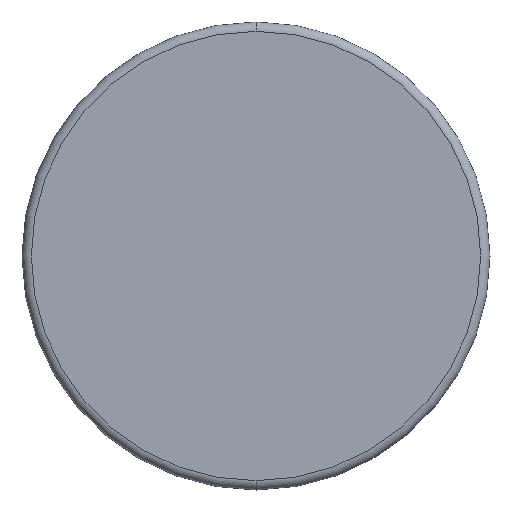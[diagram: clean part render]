
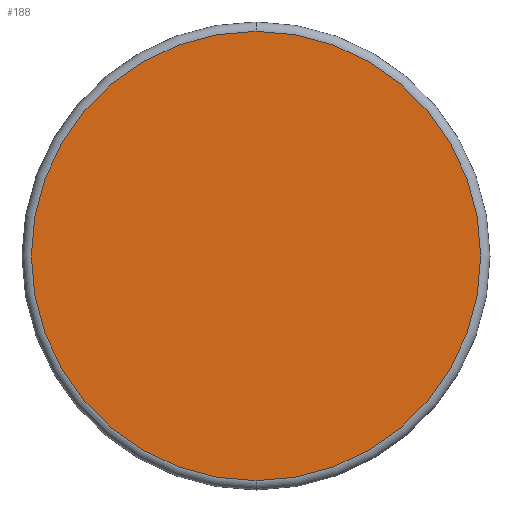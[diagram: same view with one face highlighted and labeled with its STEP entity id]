
A CAD part, front view. The second image highlights one B-rep face of the part: STEP entity #188.
In plain terms, the highlighted planar face has unit normal (0, -1, 0).
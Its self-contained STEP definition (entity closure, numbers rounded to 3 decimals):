
#10 = EDGE_CURVE ( 'NONE', #674, #298, #908, .T. ) ;
#35 = ORIENTED_EDGE ( 'NONE', *, *, #529, .T. ) ;
#102 = CIRCLE ( 'NONE', #776, 24. ) ;
#114 = CARTESIAN_POINT ( 'NONE',  ( 0., 0., 24. ) ) ;
#141 = CARTESIAN_POINT ( 'NONE',  ( 0., 0., 0. ) ) ;
#151 = EDGE_LOOP ( 'NONE', ( #187, #35 ) ) ;
#187 = ORIENTED_EDGE ( 'NONE', *, *, #10, .T. ) ;
#188 = ADVANCED_FACE ( 'NONE', ( #1169 ), #281, .F. ) ;
#281 = PLANE ( 'NONE',  #531 ) ;
#297 = DIRECTION ( 'NONE',  ( 0., 0., -1. ) ) ;
#298 = VERTEX_POINT ( 'NONE', #114 ) ;
#477 = CARTESIAN_POINT ( 'NONE',  ( 0., 0., 0. ) ) ;
#529 = EDGE_CURVE ( 'NONE', #298, #674, #102, .T. ) ;
#531 = AXIS2_PLACEMENT_3D ( 'NONE', #542, #927, #1186 ) ;
#542 = CARTESIAN_POINT ( 'NONE',  ( 0., 0., 0. ) ) ;
#615 = AXIS2_PLACEMENT_3D ( 'NONE', #141, #870, #879 ) ;
#674 = VERTEX_POINT ( 'NONE', #1019 ) ;
#776 = AXIS2_PLACEMENT_3D ( 'NONE', #477, #1126, #297 ) ;
#870 = DIRECTION ( 'NONE',  ( 0., -1., 0. ) ) ;
#879 = DIRECTION ( 'NONE',  ( 0., 0., -1. ) ) ;
#908 = CIRCLE ( 'NONE', #615, 24. ) ;
#927 = DIRECTION ( 'NONE',  ( 0., 1., 0. ) ) ;
#1019 = CARTESIAN_POINT ( 'NONE',  ( 0., 0., -24. ) ) ;
#1126 = DIRECTION ( 'NONE',  ( 0., -1., 0. ) ) ;
#1169 = FACE_OUTER_BOUND ( 'NONE', #151, .T. ) ;
#1186 = DIRECTION ( 'NONE',  ( 0., 0., 1. ) ) ;
